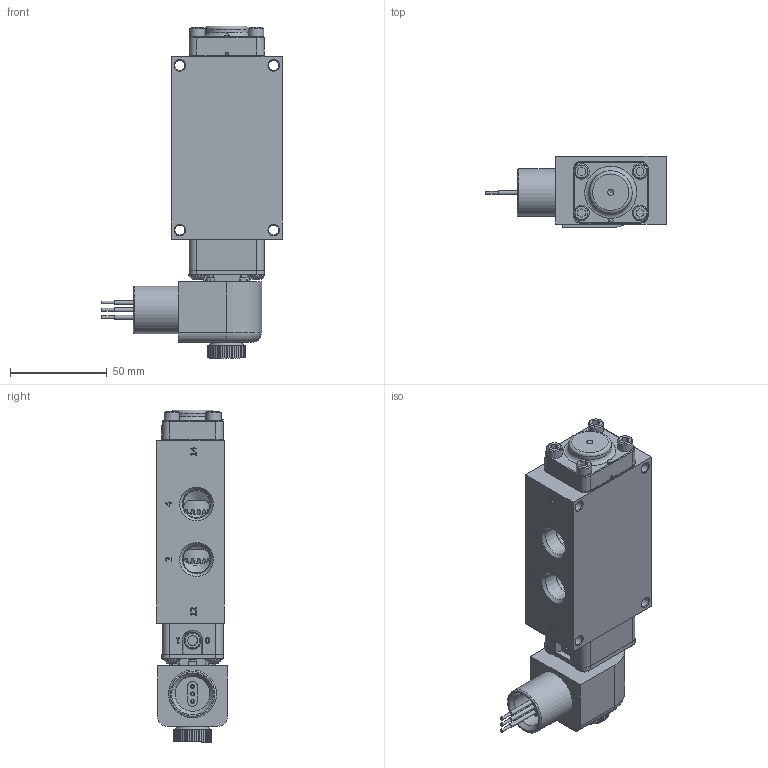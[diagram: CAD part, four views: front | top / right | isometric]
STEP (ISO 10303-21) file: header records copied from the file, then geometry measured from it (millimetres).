
FILE_DESCRIPTION(/* description */ (''),/* implementation_level */ '2;1');
FILE_NAME(/* name */ 'D:\Website Files\stp\Valves\Standard\ESO\ZESO3XL.stp',/* time_stamp */ '2016-04-23T03:42:44-04:00',/* author */ ('RMcKenna'),/* organization */ (''),/* preprocessor_version */ 'ST-DEVELOPER v15.6',/* originating_system */ 'Autodesk Inventor 2015',/* authorisation */ '');
FILE_SCHEMA (('AUTOMOTIVE_DESIGN { 1 0 10303 214 3 1 1 }'));
Products named in the file (1): Part14
Bounding box: 92.98 x 36.57 x 171.22 mm (x, y, z)
Volume: 234702 mm3; surface area: 73843.9 mm2
Topology: 1 solids, 18 shells, 1664 faces, 4146 edges, 2650 vertices
Faces by surface type: plane 805, cylinder 396, cone 251, torus 120, bspline 87, sphere 5
Full cylindrical faces by diameter (mm): 1.3 x1, 1.397 x1, 1.5 x1, 1.524 x3, 2.007 x2, 2.032 x11, 2.35 x4, 2.381 x1, 2.8 x1, 2.819 x1, 3 x4, 3.048 x1, 3.175 x2, 3.4 x1, 3.683 x9, 4.191 x2, 4.394 x1, 4.826 x8, 4.953 x1, 5.15 x4, 5.156 x12, 5.5 x1, 6.553 x1, 7.315 x1, 7.938 x4, 8 x2, 8.052 x1, 8.128 x1, 8.153 x1, 8.433 x1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
Entity records: 52451 total; most frequent: CARTESIAN_POINT 13014, DIRECTION 7664, ORIENTED_EDGE 7582, EDGE_CURVE 3789, AXIS2_PLACEMENT_3D 2860, VERTEX_POINT 2545, EDGE_LOOP 2092, LINE 1944
